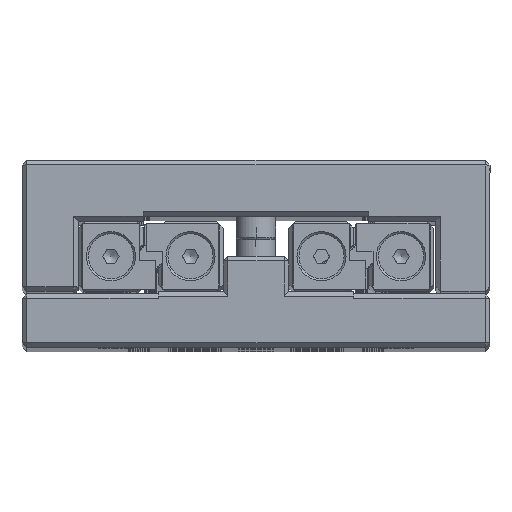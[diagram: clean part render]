
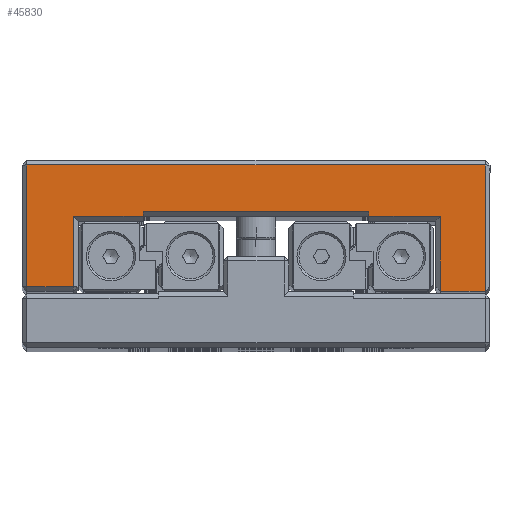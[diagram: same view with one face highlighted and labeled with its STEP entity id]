
A CAD part, top view. The second image highlights one B-rep face of the part: STEP entity #45830.
In plain terms, the highlighted planar face has unit normal (0, 0, 1).
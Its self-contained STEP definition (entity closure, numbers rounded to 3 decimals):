
#2609=PLANE('',#49662);
#5119=FACE_OUTER_BOUND('',#7875,.T.);
#7875=EDGE_LOOP('',(#37255,#37256,#37257,#37258,#37259,#37260,#37261,#37262,
#37263,#37264,#37265,#37266));
#11024=LINE('',#71297,#14912);
#11105=LINE('',#71869,#14993);
#11214=LINE('',#72663,#15102);
#11310=LINE('',#72974,#15198);
#11314=LINE('',#72982,#15202);
#11323=LINE('',#72997,#15211);
#11327=LINE('',#73005,#15215);
#11342=LINE('',#73031,#15230);
#11345=LINE('',#73035,#15233);
#11364=LINE('',#73074,#15252);
#11367=LINE('',#73079,#15255);
#11368=LINE('',#73080,#15256);
#14912=VECTOR('',#57376,10.);
#14993=VECTOR('',#58011,10.);
#15102=VECTOR('',#58612,10.);
#15198=VECTOR('',#58852,10.);
#15202=VECTOR('',#58860,10.);
#15211=VECTOR('',#58875,10.);
#15215=VECTOR('',#58881,10.);
#15230=VECTOR('',#58906,10.);
#15233=VECTOR('',#58911,10.);
#15252=VECTOR('',#58964,10.);
#15255=VECTOR('',#58971,10.);
#15256=VECTOR('',#58972,10.);
#20508=VERTEX_POINT('',#71293);
#20510=VERTEX_POINT('',#71296);
#20707=VERTEX_POINT('',#71865);
#20709=VERTEX_POINT('',#71868);
#20944=VERTEX_POINT('',#72652);
#20947=VERTEX_POINT('',#72661);
#21042=VERTEX_POINT('',#72973);
#21043=VERTEX_POINT('',#72980);
#21044=VERTEX_POINT('',#72981);
#21047=VERTEX_POINT('',#72996);
#21050=VERTEX_POINT('',#73003);
#21056=VERTEX_POINT('',#73029);
#25980=EDGE_CURVE('',#20510,#20508,#11024,.T.);
#26250=EDGE_CURVE('',#20709,#20707,#11105,.T.);
#26589=EDGE_CURVE('',#20944,#20947,#11214,.T.);
#26720=EDGE_CURVE('',#20510,#21042,#11310,.T.);
#26724=EDGE_CURVE('',#21043,#21044,#11314,.T.);
#26733=EDGE_CURVE('',#21044,#21047,#11323,.T.);
#26737=EDGE_CURVE('',#21050,#20508,#11327,.T.);
#26752=EDGE_CURVE('',#21056,#21050,#11342,.T.);
#26755=EDGE_CURVE('',#21047,#21056,#11345,.T.);
#26774=EDGE_CURVE('',#20709,#20947,#11364,.T.);
#26777=EDGE_CURVE('',#20944,#21043,#11367,.T.);
#26778=EDGE_CURVE('',#21042,#20707,#11368,.T.);
#37255=ORIENTED_EDGE('',*,*,#26777,.F.);
#37256=ORIENTED_EDGE('',*,*,#26589,.T.);
#37257=ORIENTED_EDGE('',*,*,#26774,.F.);
#37258=ORIENTED_EDGE('',*,*,#26250,.T.);
#37259=ORIENTED_EDGE('',*,*,#26778,.F.);
#37260=ORIENTED_EDGE('',*,*,#26720,.F.);
#37261=ORIENTED_EDGE('',*,*,#25980,.T.);
#37262=ORIENTED_EDGE('',*,*,#26737,.F.);
#37263=ORIENTED_EDGE('',*,*,#26752,.F.);
#37264=ORIENTED_EDGE('',*,*,#26755,.F.);
#37265=ORIENTED_EDGE('',*,*,#26733,.F.);
#37266=ORIENTED_EDGE('',*,*,#26724,.F.);
#45830=ADVANCED_FACE('',(#5119),#2609,.T.);
#49662=AXIS2_PLACEMENT_3D('',#73078,#58969,#58970);
#57376=DIRECTION('',(1.,0.,0.));
#58011=DIRECTION('',(0.,-1.,0.));
#58612=DIRECTION('',(0.,1.,0.));
#58852=DIRECTION('',(0.,1.,0.));
#58860=DIRECTION('',(0.,-1.,0.));
#58875=DIRECTION('',(-1.,0.,0.));
#58881=DIRECTION('',(0.,-1.,0.));
#58906=DIRECTION('',(1.,0.,0.));
#58911=DIRECTION('',(0.,1.,0.));
#58964=DIRECTION('',(-1.,0.,0.));
#58969=DIRECTION('center_axis',(0.,0.,
1.));
#58970=DIRECTION('ref_axis',(1.,0.,0.));
#58971=DIRECTION('',(-1.,0.,0.));
#58972=DIRECTION('',(-1.,0.,0.));
#71293=CARTESIAN_POINT('',(19.869,67.583,314.133));
#71296=CARTESIAN_POINT('',(10.269,67.583,314.133));
#71297=CARTESIAN_POINT('',(9.269,67.583,314.133));
#71865=CARTESIAN_POINT('',(-5.031,83.583,314.133));
#71868=CARTESIAN_POINT('',(-5.031,84.583,314.133));
#71869=CARTESIAN_POINT('',(-5.031,83.583,314.133));
#72652=CARTESIAN_POINT('',(-53.231,83.583,314.133));
#72661=CARTESIAN_POINT('',(-53.231,84.583,314.133));
#72663=CARTESIAN_POINT('',(-53.231,82.583,314.133));
#72973=CARTESIAN_POINT('',(10.269,83.583,314.133));
#72974=CARTESIAN_POINT('',(10.269,82.083,314.133));
#72980=CARTESIAN_POINT('',(-68.131,83.583,314.133));
#72981=CARTESIAN_POINT('',(-68.131,68.583,314.133));
#72982=CARTESIAN_POINT('',(-68.131,74.583,314.133));
#72996=CARTESIAN_POINT('',(-78.131,68.583,314.133));
#72997=CARTESIAN_POINT('',(-54.131,68.583,314.133));
#73003=CARTESIAN_POINT('',(19.869,94.583,314.133));
#73005=CARTESIAN_POINT('',(19.869,74.583,314.133));
#73029=CARTESIAN_POINT('',(-78.131,94.583,314.133));
#73031=CARTESIAN_POINT('',(-4.131,94.583,314.133));
#73035=CARTESIAN_POINT('',(-78.131,88.583,314.133));
#73074=CARTESIAN_POINT('',(-41.181,84.583,314.133));
#73078=CARTESIAN_POINT('Origin',(-29.131,81.583,314.133));
#73079=CARTESIAN_POINT('',(-48.131,83.583,314.133));
#73080=CARTESIAN_POINT('',(-17.081,83.583,314.133));
